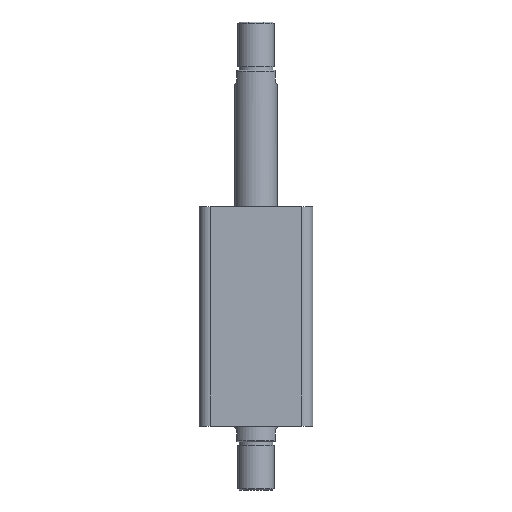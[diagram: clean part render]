
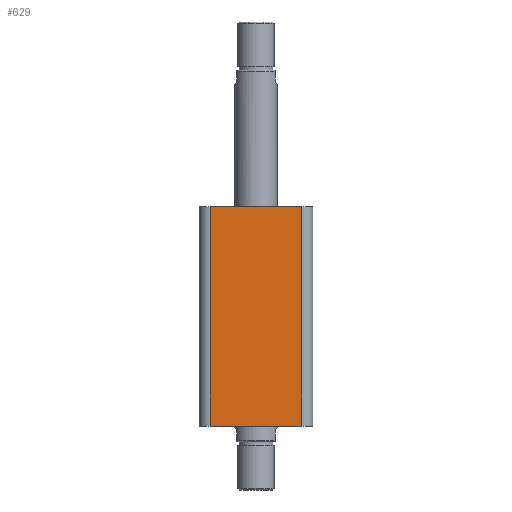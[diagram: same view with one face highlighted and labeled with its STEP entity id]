
A CAD part, front view. The second image highlights one B-rep face of the part: STEP entity #629.
In plain terms, the highlighted planar face has unit normal (0, -1, 0).
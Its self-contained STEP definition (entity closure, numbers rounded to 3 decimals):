
#49 = CARTESIAN_POINT ( 'NONE',  ( 38., -47., 182. ) ) ;
#52 = CARTESIAN_POINT ( 'NONE',  ( 38., -47., 0. ) ) ;
#54 = CARTESIAN_POINT ( 'NONE',  ( -38., -47., 0. ) ) ;
#308 = VERTEX_POINT ( 'NONE', #1317 ) ;
#329 = VERTEX_POINT ( 'NONE', #54 ) ;
#332 = VERTEX_POINT ( 'NONE', #49 ) ;
#333 = VERTEX_POINT ( 'NONE', #52 ) ;
#629 = ADVANCED_FACE ( 'NONE', ( #2614 ), #778, .F. ) ;
#776 = CARTESIAN_POINT ( 'NONE',  ( -47., -47., 182. ) ) ;
#778 = PLANE ( 'NONE',  #2309 ) ;
#780 = DIRECTION ( 'NONE',  ( 0., 1., 0. ) ) ;
#781 = DIRECTION ( 'NONE',  ( 0., 0., 1. ) ) ;
#1317 = CARTESIAN_POINT ( 'NONE',  ( -38., -47., 182. ) ) ;
#1592 = LINE ( 'NONE', #2822, #1594 ) ;
#1594 = VECTOR ( 'NONE', #2823, 1000. ) ;
#1614 = LINE ( 'NONE', #2884, #1617 ) ;
#1617 = VECTOR ( 'NONE', #2886, 1000. ) ;
#1647 = LINE ( 'NONE', #2968, #1650 ) ;
#1650 = VECTOR ( 'NONE', #2969, 1000. ) ;
#1702 = LINE ( 'NONE', #3080, #1705 ) ;
#1705 = VECTOR ( 'NONE', #3081, 1000. ) ;
#2138 = EDGE_CURVE ( 'NONE', #308, #332, #1592, .T. ) ;
#2159 = EDGE_CURVE ( 'NONE', #308, #329, #1614, .T. ) ;
#2183 = EDGE_CURVE ( 'NONE', #333, #332, #1647, .T. ) ;
#2222 = EDGE_CURVE ( 'NONE', #329, #333, #1702, .T. ) ;
#2309 = AXIS2_PLACEMENT_3D ( 'NONE', #776, #780, #781 ) ;
#2387 = EDGE_LOOP ( 'NONE', ( #3155, #3156, #3157, #3158 ) ) ;
#2614 = FACE_OUTER_BOUND ( 'NONE', #2387, .T. ) ;
#2822 = CARTESIAN_POINT ( 'NONE',  ( -47., -47., 182. ) ) ;
#2823 = DIRECTION ( 'NONE',  ( 1., 0., 0. ) ) ;
#2884 = CARTESIAN_POINT ( 'NONE',  ( -38., -47., 182. ) ) ;
#2886 = DIRECTION ( 'NONE',  ( 0., 0., -1. ) ) ;
#2968 = CARTESIAN_POINT ( 'NONE',  ( 38., -47., 182. ) ) ;
#2969 = DIRECTION ( 'NONE',  ( 0., 0., 1. ) ) ;
#3080 = CARTESIAN_POINT ( 'NONE',  ( -47., -47., 0. ) ) ;
#3081 = DIRECTION ( 'NONE',  ( 1., 0., 0. ) ) ;
#3155 = ORIENTED_EDGE ( 'NONE', *, *, #2138, .F. ) ;
#3156 = ORIENTED_EDGE ( 'NONE', *, *, #2159, .T. ) ;
#3157 = ORIENTED_EDGE ( 'NONE', *, *, #2222, .T. ) ;
#3158 = ORIENTED_EDGE ( 'NONE', *, *, #2183, .T. ) ;
